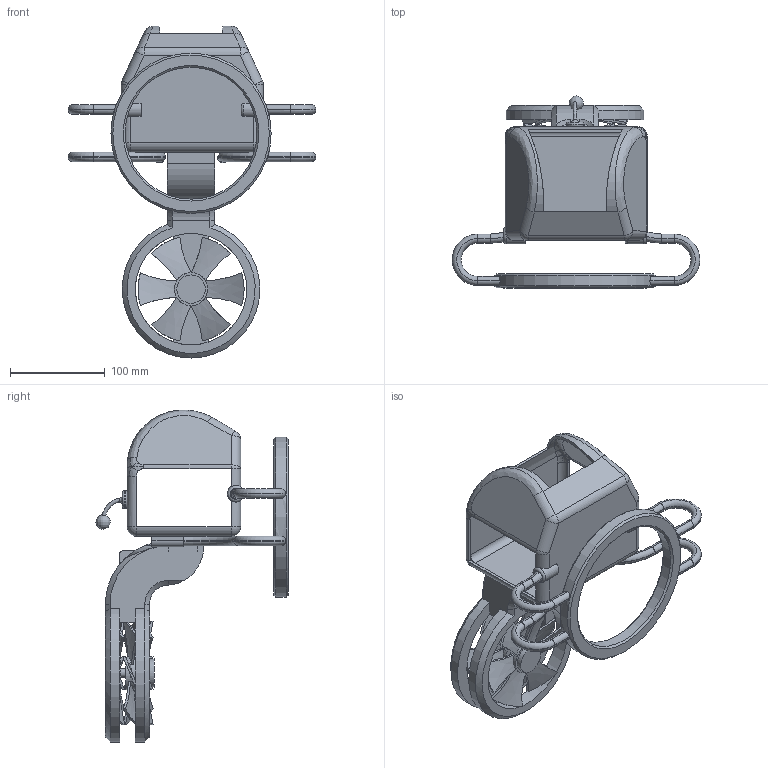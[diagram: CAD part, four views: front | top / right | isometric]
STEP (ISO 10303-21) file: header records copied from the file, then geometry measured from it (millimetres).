
FILE_DESCRIPTION(/* description */ (''),/* implementation_level */ '2;1');
FILE_NAME(/* name */ 'C:\Users\andre\OneDrive\Documents\SQA\Item Writer\Concepts\3\STEP Files\Hovercraft\Hovercraft.stp',/* time_stamp */ '2019-05-24T18:07:19+01:00',/* author */ ('andre'),/* organization */ (''),/* preprocessor_version */ 'ST-DEVELOPER v16.13',/* originating_system */ 'Autodesk Inventor 2018',/* authorisation */ '');
FILE_SCHEMA (('AUTOMOTIVE_DESIGN { 1 0 10303 214 3 1 1 }'));
Length unit declared in the file: millimetre
Products named in the file (6): Hovercraft; Part1; Part2; Part3; Part4; Part5
Assembly tree (5 placements, depth 2):
  Hovercraft
    Part1
    Part2
    Part3
    Part4
    Part5
Bounding box: 261.54 x 202.75 x 350.52 mm (x, y, z)
Volume: 867933.6 mm3; surface area: 324850 mm2
Topology: 7 solids, 7 shells, 507 faces, 1244 edges, 762 vertices
Faces by surface type: cylinder 208, plane 142, bspline 89, torus 38, sphere 16, cone 14
Full cylindrical faces by diameter (mm): 8.908 x4, 10 x2, 18.9 x1, 30 x1, 35 x3, 117.71 x1, 139.2 x1, 169.2 x1
Entity records: 24593 total; most frequent: CARTESIAN_POINT 13327, ORIENTED_EDGE 2410, DIRECTION 2052, EDGE_CURVE 1205, AXIS2_PLACEMENT_3D 762, VERTEX_POINT 750, EDGE_LOOP 571, LINE 528
